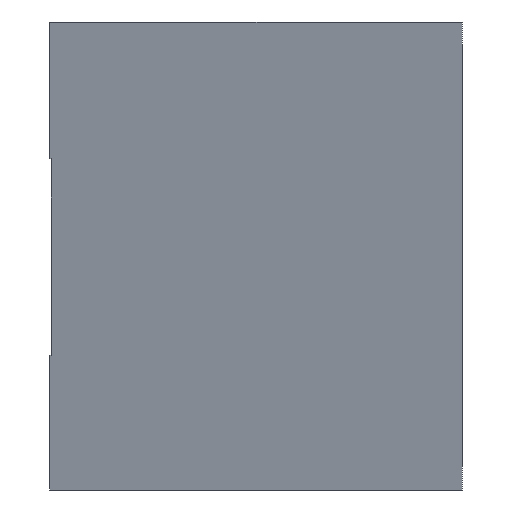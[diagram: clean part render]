
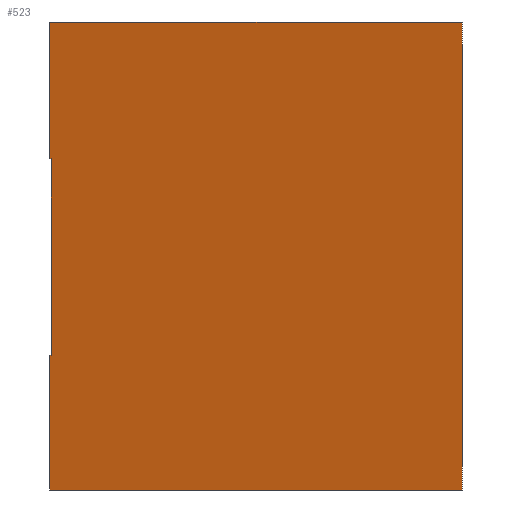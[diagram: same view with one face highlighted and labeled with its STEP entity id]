
A CAD part, left-side view. The second image highlights one B-rep face of the part: STEP entity #523.
In plain terms, the highlighted planar face has unit normal (-0.95, 0.312, 0).
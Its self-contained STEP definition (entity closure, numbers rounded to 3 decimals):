
#48=FACE_OUTER_BOUND('',#74,.T.);
#74=EDGE_LOOP('',(#464,#465,#466,#467,#468,#469,#470,#471));
#121=LINE('',#801,#189);
#124=LINE('',#807,#192);
#131=LINE('',#824,#199);
#137=LINE('',#835,#205);
#138=LINE('',#837,#206);
#139=LINE('',#840,#207);
#142=LINE('',#845,#210);
#143=LINE('',#847,#211);
#189=VECTOR('',#651,10.);
#192=VECTOR('',#656,10.);
#199=VECTOR('',#669,10.);
#205=VECTOR('',#683,10.);
#206=VECTOR('',#686,10.);
#207=VECTOR('',#689,10.);
#210=VECTOR('',#694,10.);
#211=VECTOR('',#697,10.);
#244=VERTEX_POINT('',#793);
#247=VERTEX_POINT('',#799);
#249=VERTEX_POINT('',#805);
#255=VERTEX_POINT('',#821);
#256=VERTEX_POINT('',#823);
#257=VERTEX_POINT('',#833);
#258=VERTEX_POINT('',#839);
#259=VERTEX_POINT('',#843);
#308=EDGE_CURVE('',#244,#247,#121,.T.);
#311=EDGE_CURVE('',#247,#249,#124,.T.);
#319=EDGE_CURVE('',#256,#255,#131,.T.);
#325=EDGE_CURVE('',#257,#249,#137,.T.);
#326=EDGE_CURVE('',#255,#244,#138,.T.);
#327=EDGE_CURVE('',#256,#258,#139,.T.);
#330=EDGE_CURVE('',#257,#259,#142,.T.);
#331=EDGE_CURVE('',#258,#259,#143,.T.);
#464=ORIENTED_EDGE('',*,*,#308,.T.);
#465=ORIENTED_EDGE('',*,*,#311,.T.);
#466=ORIENTED_EDGE('',*,*,#325,.F.);
#467=ORIENTED_EDGE('',*,*,#330,.T.);
#468=ORIENTED_EDGE('',*,*,#331,.F.);
#469=ORIENTED_EDGE('',*,*,#327,.F.);
#470=ORIENTED_EDGE('',*,*,#319,.T.);
#471=ORIENTED_EDGE('',*,*,#326,.T.);
#498=PLANE('',#567);
#523=ADVANCED_FACE('',(#48),#498,.T.);
#567=AXIS2_PLACEMENT_3D('',#846,#695,#696);
#651=DIRECTION('',(0.312,0.95,0.));
#656=DIRECTION('',(0.,0.,-1.));
#669=DIRECTION('',(-0.312,-0.95,0.));
#683=DIRECTION('',(0.312,0.95,0.));
#686=DIRECTION('',(0.,0.,-1.));
#689=DIRECTION('',(0.,0.,1.));
#694=DIRECTION('',(0.,0.,1.));
#695=DIRECTION('center_axis',(-0.95,0.312,0.));
#696=DIRECTION('ref_axis',(-0.312,-0.95,0.));
#697=DIRECTION('',(-0.312,-0.95,0.));
#793=CARTESIAN_POINT('',(-31.559,-96.048,-1.5));
#799=CARTESIAN_POINT('',(-31.518,-95.921,-1.5));
#801=CARTESIAN_POINT('',(-32.595,-99.201,-1.5));
#805=CARTESIAN_POINT('',(-31.518,-95.921,-13.));
#807=CARTESIAN_POINT('',(-31.518,-95.921,7.));
#821=CARTESIAN_POINT('',(-31.559,-96.048,15.3));
#823=CARTESIAN_POINT('',(-31.518,-95.921,15.3));
#824=CARTESIAN_POINT('',(-32.595,-99.201,15.3));
#833=CARTESIAN_POINT('',(-43.099,-131.167,-13.));
#835=CARTESIAN_POINT('',(0.,0.,-13.));
#837=CARTESIAN_POINT('',(-31.559,-96.048,-1.1));
#839=CARTESIAN_POINT('',(-31.518,-95.921,27.));
#840=CARTESIAN_POINT('',(-31.518,-95.921,7.));
#843=CARTESIAN_POINT('',(-43.099,-131.167,27.));
#845=CARTESIAN_POINT('',(-43.099,-131.167,7.));
#846=CARTESIAN_POINT('Origin',(-31.518,-95.921,7.));
#847=CARTESIAN_POINT('',(0.,0.,27.));
